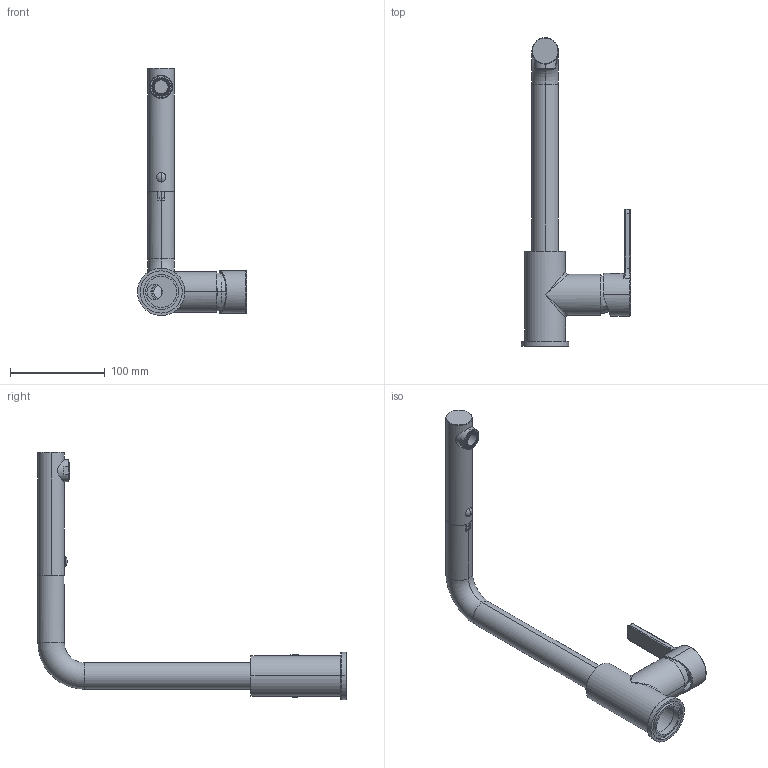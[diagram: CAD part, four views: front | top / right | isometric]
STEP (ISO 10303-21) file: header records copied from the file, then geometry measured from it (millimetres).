
FILE_DESCRIPTION(/* description */ (''),/* implementation_level */ '2;1');
FILE_NAME(/* name */ 'MID1MN.stp',/* time_stamp */ '2021-05-15T12:28:39+02:00',/* author */ (''),/* organization */ (''),/* preprocessor_version */ 'ST-DEVELOPER v16',/* originating_system */ 'SIEMENS PLM Software NX 11.0',/* authorisation */ '');
FILE_SCHEMA (('AUTOMOTIVE_DESIGN { 1 0 10303 214 3 1 1 1 }'));
Length unit declared in the file: millimetre
Products named in the file (1): mart3FDC483658yu
Bounding box: 115.1 x 325.5 x 261 mm (x, y, z)
Volume: 280189 mm3; surface area: 128096 mm2
Topology: 9 solids, 9 shells, 1083 faces, 2758 edges, 1765 vertices
Faces by surface type: plane 656, cylinder 225, bspline 77, torus 62, cone 30, extrusion 23, sphere 10
Entity records: 36921 total; most frequent: CARTESIAN_POINT 10840, ORIENTED_EDGE 5504, DIRECTION 5218, EDGE_CURVE 2752, VECTOR 1862, LINE 1839, VERTEX_POINT 1765, AXIS2_PLACEMENT_3D 1678
